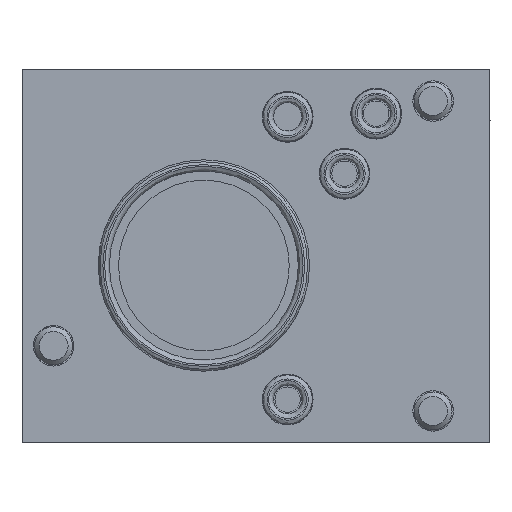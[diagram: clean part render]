
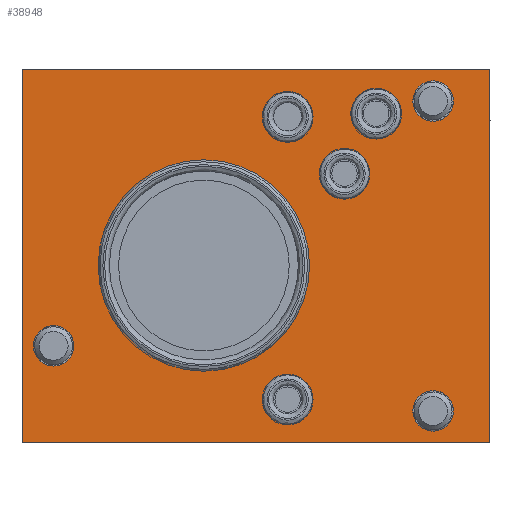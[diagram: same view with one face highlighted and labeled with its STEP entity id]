
A CAD part, left-side view. The second image highlights one B-rep face of the part: STEP entity #38948.
In plain terms, the highlighted planar face has unit normal (-1, 0, 0).
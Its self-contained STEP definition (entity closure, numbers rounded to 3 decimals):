
#665 = ORIENTED_EDGE ( 'NONE', *, *, #16375, .T. ) ;
#915 = EDGE_LOOP ( 'NONE', ( #39414 ) ) ;
#1063 = CARTESIAN_POINT ( 'NONE',  ( -47., 0., 0. ) ) ;
#1295 = CARTESIAN_POINT ( 'NONE',  ( -47., -42., 51.5 ) ) ;
#1562 = DIRECTION ( 'NONE',  ( 0., -1., 0. ) ) ;
#1681 = DIRECTION ( 'NONE',  ( 0., -1., 0. ) ) ;
#2119 = CARTESIAN_POINT ( 'NONE',  ( -47., 0., 59. ) ) ;
#2128 = EDGE_LOOP ( 'NONE', ( #7870 ) ) ;
#2413 = CIRCLE ( 'NONE', #8574, 3.2 ) ;
#3270 = FACE_BOUND ( 'NONE', #27273, .T. ) ;
#3630 = CARTESIAN_POINT ( 'NONE',  ( -47., -54.9, 42.5 ) ) ;
#4808 = AXIS2_PLACEMENT_3D ( 'NONE', #1295, #26233, #26932 ) ;
#4949 = CARTESIAN_POINT ( 'NONE',  ( -47., -65., 50.8 ) ) ;
#5125 = EDGE_CURVE ( 'NONE', #41617, #41617, #6070, .T. ) ;
#5492 = DIRECTION ( 'NONE',  ( -1., 0., 0. ) ) ;
#5880 = DIRECTION ( 'NONE',  ( 0., 0., -1. ) ) ;
#6038 = VERTEX_POINT ( 'NONE', #8804 ) ;
#6070 = CIRCLE ( 'NONE', #20633, 16.4 ) ;
#6118 = CARTESIAN_POINT ( 'NONE',  ( -47., -65., 5. ) ) ;
#6559 = EDGE_LOOP ( 'NONE', ( #11528 ) ) ;
#7695 = DIRECTION ( 'NONE',  ( 1., 0., 0. ) ) ;
#7768 = VECTOR ( 'NONE', #38312, 1000. ) ;
#7870 = ORIENTED_EDGE ( 'NONE', *, *, #38142, .T. ) ;
#8302 = CARTESIAN_POINT ( 'NONE',  ( -47., -45.15, 28. ) ) ;
#8562 = VERTEX_POINT ( 'NONE', #42982 ) ;
#8574 = AXIS2_PLACEMENT_3D ( 'NONE', #35731, #21626, #36214 ) ;
#8804 = CARTESIAN_POINT ( 'NONE',  ( -47., -5., 12.1 ) ) ;
#9011 = CARTESIAN_POINT ( 'NONE',  ( -47., -56., 52. ) ) ;
#9057 = AXIS2_PLACEMENT_3D ( 'NONE', #6118, #17192, #5880 ) ;
#9610 = CARTESIAN_POINT ( 'NONE',  ( -47., -65., 1.8 ) ) ;
#11528 = ORIENTED_EDGE ( 'NONE', *, *, #22595, .F. ) ;
#11581 = ORIENTED_EDGE ( 'NONE', *, *, #17469, .F. ) ;
#13004 = CARTESIAN_POINT ( 'NONE',  ( -47., 0., 0. ) ) ;
#13072 = VERTEX_POINT ( 'NONE', #19363 ) ;
#13117 = ORIENTED_EDGE ( 'NONE', *, *, #45306, .F. ) ;
#13134 = CARTESIAN_POINT ( 'NONE',  ( -47., -42., 6.8 ) ) ;
#13511 = EDGE_LOOP ( 'NONE', ( #39831 ) ) ;
#13618 = FACE_BOUND ( 'NONE', #28661, .T. ) ;
#13739 = VERTEX_POINT ( 'NONE', #4949 ) ;
#14031 = CIRCLE ( 'NONE', #4808, 3.9 ) ;
#14094 = DIRECTION ( 'NONE',  ( 1., 0., 0. ) ) ;
#14397 = CARTESIAN_POINT ( 'NONE',  ( -47., -45.9, 6.8 ) ) ;
#15483 = EDGE_CURVE ( 'NONE', #13739, #13739, #36677, .T. ) ;
#16307 = DIRECTION ( 'NONE',  ( 0., 0., -1. ) ) ;
#16375 = EDGE_CURVE ( 'NONE', #46350, #34626, #16540, .T. ) ;
#16404 = DIRECTION ( 'NONE',  ( 0., -1., 0. ) ) ;
#16540 = LINE ( 'NONE', #27521, #19871 ) ;
#17192 = DIRECTION ( 'NONE',  ( 1., 0., 0. ) ) ;
#17469 = EDGE_CURVE ( 'NONE', #24615, #13072, #37902, .T. ) ;
#17695 = FACE_BOUND ( 'NONE', #6559, .T. ) ;
#17913 = AXIS2_PLACEMENT_3D ( 'NONE', #13134, #46711, #32266 ) ;
#18125 = EDGE_CURVE ( 'NONE', #46350, #24615, #38559, .T. ) ;
#18167 = FACE_BOUND ( 'NONE', #45406, .T. ) ;
#18831 = EDGE_CURVE ( 'NONE', #6038, #6038, #2413, .T. ) ;
#19363 = CARTESIAN_POINT ( 'NONE',  ( -47., -74., 0. ) ) ;
#19871 = VECTOR ( 'NONE', #16307, 1000. ) ;
#19918 = VERTEX_POINT ( 'NONE', #31879 ) ;
#20361 = EDGE_LOOP ( 'NONE', ( #39952, #11581, #39640, #665 ) ) ;
#20633 = AXIS2_PLACEMENT_3D ( 'NONE', #41463, #34016, #34247 ) ;
#21355 = EDGE_CURVE ( 'NONE', #8562, #8562, #45374, .T. ) ;
#21626 = DIRECTION ( 'NONE',  ( 1., 0., 0. ) ) ;
#22441 = CIRCLE ( 'NONE', #33111, 3.9 ) ;
#22595 = EDGE_CURVE ( 'NONE', #36465, #36465, #22441, .T. ) ;
#24096 = DIRECTION ( 'NONE',  ( -1., 0., 0. ) ) ;
#24615 = VERTEX_POINT ( 'NONE', #29929 ) ;
#24869 = PLANE ( 'NONE',  #45097 ) ;
#25107 = FACE_BOUND ( 'NONE', #915, .T. ) ;
#25336 = DIRECTION ( 'NONE',  ( 0., 1., 0. ) ) ;
#25639 = VERTEX_POINT ( 'NONE', #14397 ) ;
#25668 = CARTESIAN_POINT ( 'NONE',  ( -47., -65., 54. ) ) ;
#25931 = DIRECTION ( 'NONE',  ( 0., 0., -1. ) ) ;
#26233 = DIRECTION ( 'NONE',  ( -1., 0., 0. ) ) ;
#26932 = DIRECTION ( 'NONE',  ( 0., -1., 0. ) ) ;
#27273 = EDGE_LOOP ( 'NONE', ( #37807 ) ) ;
#27521 = CARTESIAN_POINT ( 'NONE',  ( -47., 0., 59. ) ) ;
#28661 = EDGE_LOOP ( 'NONE', ( #34754 ) ) ;
#29697 = CIRCLE ( 'NONE', #9057, 3.2 ) ;
#29929 = CARTESIAN_POINT ( 'NONE',  ( -47., -74., 59. ) ) ;
#30277 = CARTESIAN_POINT ( 'NONE',  ( -47., 0., 59. ) ) ;
#30709 = CARTESIAN_POINT ( 'NONE',  ( -47., -74., 59. ) ) ;
#30735 = LINE ( 'NONE', #13004, #33158 ) ;
#31144 = EDGE_LOOP ( 'NONE', ( #13117 ) ) ;
#31299 = VECTOR ( 'NONE', #25931, 1000. ) ;
#31879 = CARTESIAN_POINT ( 'NONE',  ( -47., -45.9, 51.5 ) ) ;
#32042 = FACE_BOUND ( 'NONE', #13511, .T. ) ;
#32266 = DIRECTION ( 'NONE',  ( 0., -1., 0. ) ) ;
#32280 = FACE_OUTER_BOUND ( 'NONE', #20361, .T. ) ;
#33111 = AXIS2_PLACEMENT_3D ( 'NONE', #34728, #5492, #1681 ) ;
#33158 = VECTOR ( 'NONE', #16404, 1000. ) ;
#33182 = AXIS2_PLACEMENT_3D ( 'NONE', #9011, #24096, #1562 ) ;
#34016 = DIRECTION ( 'NONE',  ( -1., 0., 0. ) ) ;
#34247 = DIRECTION ( 'NONE',  ( 0., -1., 0. ) ) ;
#34626 = VERTEX_POINT ( 'NONE', #1063 ) ;
#34728 = CARTESIAN_POINT ( 'NONE',  ( -47., -51., 42.5 ) ) ;
#34754 = ORIENTED_EDGE ( 'NONE', *, *, #47353, .F. ) ;
#35731 = CARTESIAN_POINT ( 'NONE',  ( -47., -5., 15.3 ) ) ;
#36102 = FACE_BOUND ( 'NONE', #2128, .T. ) ;
#36214 = DIRECTION ( 'NONE',  ( 0., 0., -1. ) ) ;
#36332 = ORIENTED_EDGE ( 'NONE', *, *, #18831, .T. ) ;
#36465 = VERTEX_POINT ( 'NONE', #3630 ) ;
#36574 = FACE_BOUND ( 'NONE', #31144, .T. ) ;
#36677 = CIRCLE ( 'NONE', #42809, 3.2 ) ;
#37807 = ORIENTED_EDGE ( 'NONE', *, *, #21355, .F. ) ;
#37902 = LINE ( 'NONE', #30709, #31299 ) ;
#38142 = EDGE_CURVE ( 'NONE', #38364, #38364, #29697, .T. ) ;
#38312 = DIRECTION ( 'NONE',  ( 0., -1., 0. ) ) ;
#38364 = VERTEX_POINT ( 'NONE', #9610 ) ;
#38559 = LINE ( 'NONE', #2119, #7768 ) ;
#38579 = CIRCLE ( 'NONE', #17913, 3.9 ) ;
#38948 = ADVANCED_FACE ( 'NONE', ( #36574, #17695, #13618, #3270, #32042, #18167, #36102, #25107, #32280 ), #24869, .F. ) ;
#39414 = ORIENTED_EDGE ( 'NONE', *, *, #5125, .F. ) ;
#39640 = ORIENTED_EDGE ( 'NONE', *, *, #18125, .F. ) ;
#39831 = ORIENTED_EDGE ( 'NONE', *, *, #15483, .T. ) ;
#39952 = ORIENTED_EDGE ( 'NONE', *, *, #46364, .T. ) ;
#40293 = DIRECTION ( 'NONE',  ( 0., 0., -1. ) ) ;
#41463 = CARTESIAN_POINT ( 'NONE',  ( -47., -28.75, 28. ) ) ;
#41617 = VERTEX_POINT ( 'NONE', #8302 ) ;
#42809 = AXIS2_PLACEMENT_3D ( 'NONE', #25668, #7695, #40293 ) ;
#42982 = CARTESIAN_POINT ( 'NONE',  ( -47., -59.9, 52. ) ) ;
#45097 = AXIS2_PLACEMENT_3D ( 'NONE', #46968, #14094, #25336 ) ;
#45306 = EDGE_CURVE ( 'NONE', #19918, #19918, #14031, .T. ) ;
#45374 = CIRCLE ( 'NONE', #33182, 3.9 ) ;
#45406 = EDGE_LOOP ( 'NONE', ( #36332 ) ) ;
#46350 = VERTEX_POINT ( 'NONE', #30277 ) ;
#46364 = EDGE_CURVE ( 'NONE', #34626, #13072, #30735, .T. ) ;
#46711 = DIRECTION ( 'NONE',  ( -1., 0., 0. ) ) ;
#46968 = CARTESIAN_POINT ( 'NONE',  ( -47., 0., 59. ) ) ;
#47353 = EDGE_CURVE ( 'NONE', #25639, #25639, #38579, .T. ) ;
